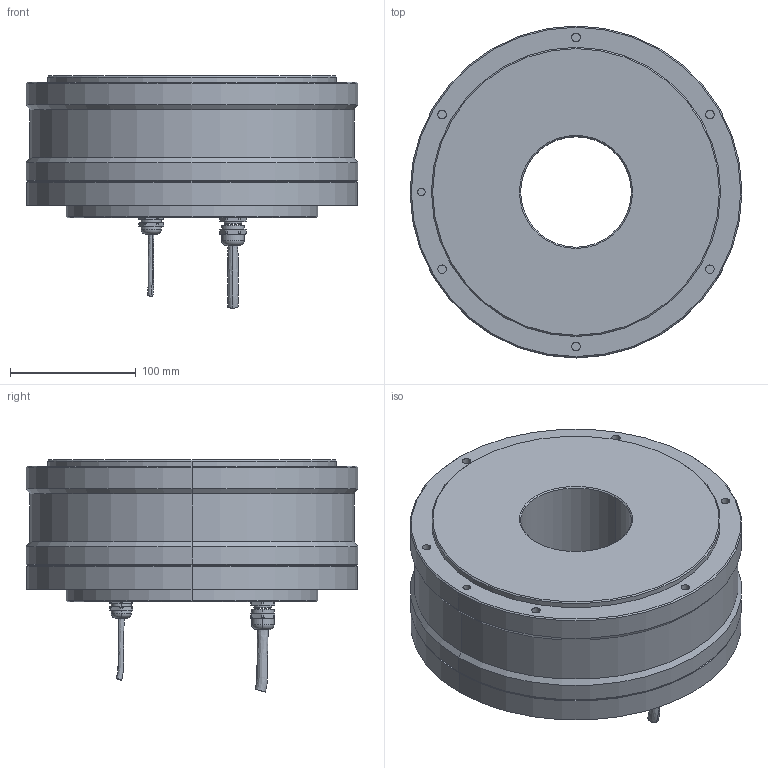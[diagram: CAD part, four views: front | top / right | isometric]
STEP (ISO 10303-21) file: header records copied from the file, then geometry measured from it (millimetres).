
FILE_DESCRIPTION (( 'STEP AP214' ), '1' );
FILE_NAME ('DMFE264-080RE.STEP', '2018-07-27T06:01:02', ( '微软用户' ), ( '微软中国' ), 'SwSTEP 2.0', 'SolidWorks 2014', '' );
FILE_SCHEMA (( 'AUTOMOTIVE_DESIGN' ));
Length unit declared in the file: millimetre
Products named in the file (1): DMFE264-080RE
Bounding box: 264 x 264 x 184.76 mm (x, y, z)
Surface area: 232024.1 mm2 (no closed solid volume)
Topology: 0 solids, 9 shells, 208 faces, 597 edges, 401 vertices
Faces by surface type: cylinder 88, plane 45, cone 37, torus 34, bspline 4
Entity records: 10102 total; most frequent: CARTESIAN_POINT 2389, DIRECTION 1186, ORIENTED_EDGE 1019, EDGE_CURVE 597, AXIS2_PLACEMENT_3D 486, VERTEX_POINT 401, CIRCLE 281, EDGE_LOOP 239
